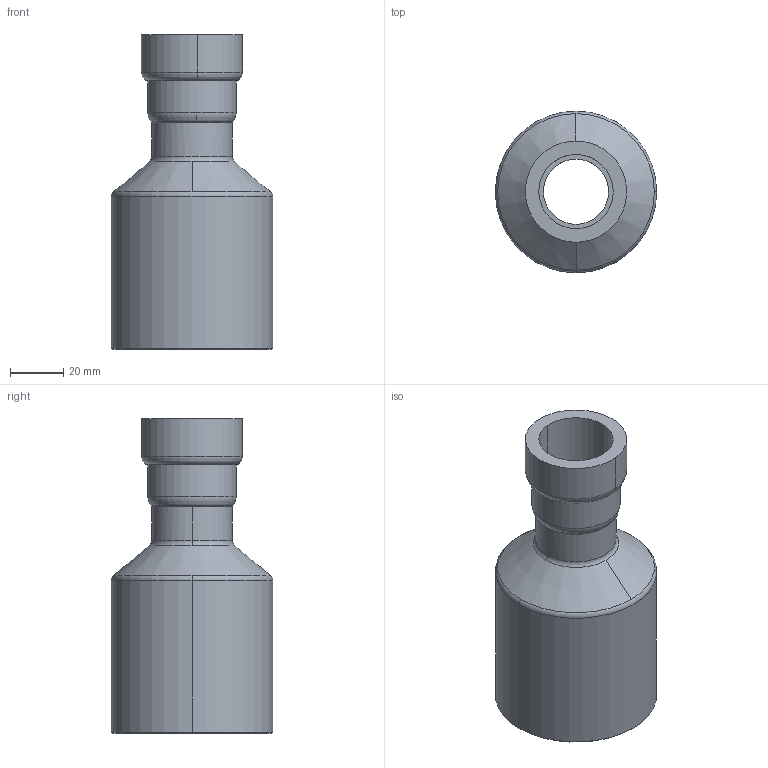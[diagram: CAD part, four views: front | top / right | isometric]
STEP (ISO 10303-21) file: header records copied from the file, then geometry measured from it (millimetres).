
FILE_DESCRIPTION(('Creo Elements/Direct Modeling STEP Export'),'2;1');
FILE_NAME('C9407_3-4_2.stp','2020-06-23T14:22:08',(''),(''),'PTC Creo Elements/Direct Modeling STEP processor for AP214 (Solid Model)','PTC Creo Elements/Direct Modeling 19.0C 15-Aug-2015 (C) Parametric Technology GmbH','');
FILE_SCHEMA(('AUTOMOTIVE_DESIGN { 1 0 10303 214 1 1 1 1 }'));
Length unit declared in the file: millimetre
Products named in the file (2): 9407_3-4_2
Assembly tree (1 placements, depth 2):
  9407_3-4_2
    9407_3-4_2
Bounding box: 60.35 x 60.35 x 117.75 mm (x, y, z)
Volume: 65222.6 mm3; surface area: 35684.3 mm2
Topology: 1 solids, 1 shells, 41 faces, 104 edges, 66 vertices
Faces by surface type: cylinder 14, torus 12, cone 12, plane 3
Entity records: 1701 total; most frequent: CARTESIAN_POINT 753, ORIENTED_EDGE 208, DIRECTION 182, EDGE_CURVE 104, AXIS2_PLACEMENT_3D 78, VERTEX_POINT 66, EDGE_LOOP 44, FACE_OUTER_BOUND 41
